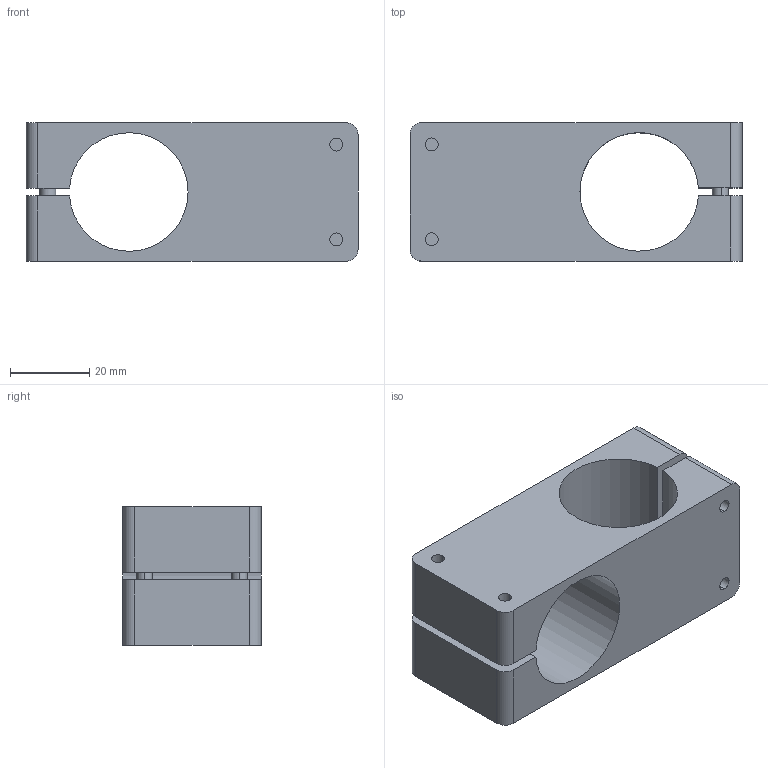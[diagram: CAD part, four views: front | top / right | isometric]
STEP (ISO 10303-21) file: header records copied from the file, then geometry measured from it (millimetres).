
FILE_DESCRIPTION (( 'STEP AP214' ), '1' );
FILE_NAME ('SCD-3030T.STEP', '2023-01-12T07:58:15', ( 'Windows User' ), ( 'P R C' ), 'SwSTEP 2.0', 'SolidWorks 2019', '' );
FILE_SCHEMA (( 'AUTOMOTIVE_DESIGN' ));
Length unit declared in the file: millimetre
Products named in the file (4): SCD-3030; PTS-M4; PTC-M4L18; SCD-3030T
Assembly tree (9 placements, depth 2):
  SCD-3030T
    PTC-M4L18  x4
    PTS-M4  x4
    SCD-3030
Bounding box: 84 x 35 x 35 mm (x, y, z)
Volume: 50318.9 mm3; surface area: 22674.2 mm2
Topology: 9 solids, 9 shells, 786 faces, 2268 edges, 1504 vertices
Faces by surface type: plane 696, cylinder 66, cone 24
Entity records: 8018 total; most frequent: DIRECTION 1408, CARTESIAN_POINT 1354, ORIENTED_EDGE 1332, EDGE_CURVE 666, AXIS2_PLACEMENT_3D 496, VERTEX_POINT 442, LINE 416, VECTOR 416
